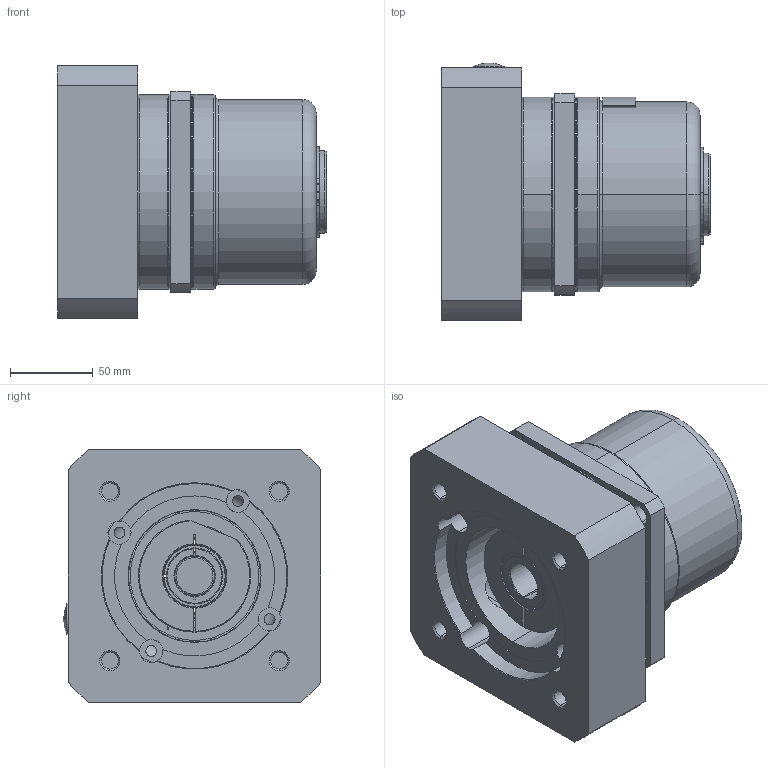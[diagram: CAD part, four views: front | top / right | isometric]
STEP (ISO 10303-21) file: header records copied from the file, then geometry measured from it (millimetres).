
FILE_DESCRIPTION (( 'STEP AP214' ), '1' );
FILE_NAME ('PL-030-0RR-FFF-MMM-F-LL-XXX-CXX-DDCC.STEP', '2019-10-24T15:11:06', ( '' ), ( '' ), 'SwSTEP 2.0', 'SolidWorks 2019', '' );
FILE_SCHEMA (( 'AUTOMOTIVE_DESIGN' ));
Length unit declared in the file: millimetre
Products named in the file (1): PL-030-0RR-FFF-MMM-F-LL-XXX-CXX-DDCC
Bounding box: 162.7 x 156.1 x 153 mm (x, y, z)
Surface area: 165115.7 mm2 (no closed solid volume)
Topology: 0 solids, 13 shells, 262 faces, 774 edges, 527 vertices
Faces by surface type: cylinder 105, cone 71, plane 57, torus 27, sphere 2
Entity records: 12232 total; most frequent: CARTESIAN_POINT 2286, DIRECTION 1563, ORIENTED_EDGE 1331, EDGE_CURVE 774, AXIS2_PLACEMENT_3D 641, VERTEX_POINT 527, CIRCLE 378, EDGE_LOOP 305
